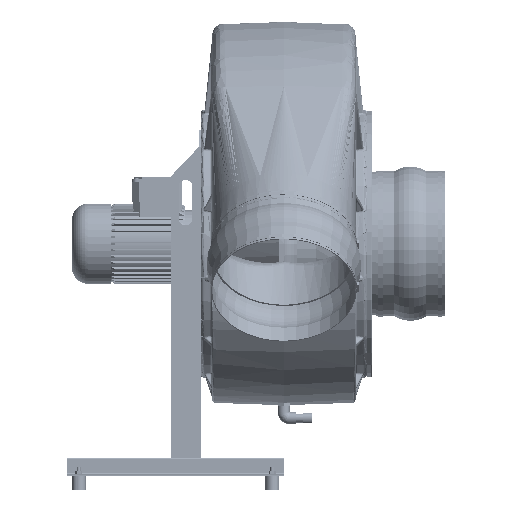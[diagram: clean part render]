
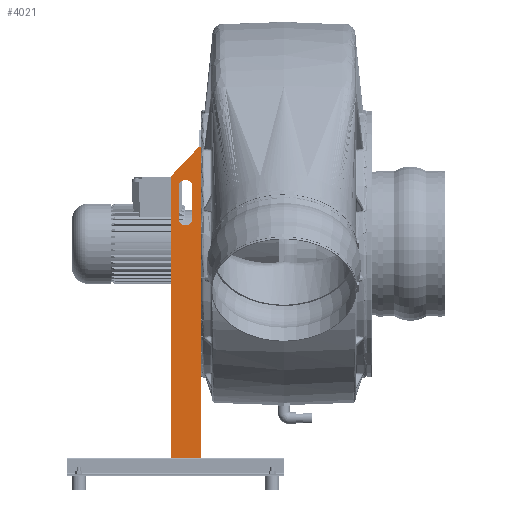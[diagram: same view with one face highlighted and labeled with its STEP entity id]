
A CAD part, left-side view. The second image highlights one B-rep face of the part: STEP entity #4021.
In plain terms, the highlighted planar face has unit normal (-1, 0, 0).
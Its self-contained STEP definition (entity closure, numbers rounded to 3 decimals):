
#4021 = ADVANCED_FACE( '', ( #10043, #10044 ), #10045, .F. );
#10043 = FACE_OUTER_BOUND( '', #19997, .T. );
#10044 = FACE_BOUND( '', #19998, .T. );
#10045 = PLANE( '', #19999 );
#19997 = EDGE_LOOP( '', ( #88112, #88113, #88114, #88115, #88116 ) );
#19998 = EDGE_LOOP( '', ( #88117, #88118, #88119, #88120 ) );
#19999 = AXIS2_PLACEMENT_3D( '', #88121, #88122, #88123 );
#88112 = ORIENTED_EDGE( '', *, *, #121517, .F. );
#88113 = ORIENTED_EDGE( '', *, *, #121518, .T. );
#88114 = ORIENTED_EDGE( '', *, *, #121519, .T. );
#88115 = ORIENTED_EDGE( '', *, *, #121520, .T. );
#88116 = ORIENTED_EDGE( '', *, *, #121521, .T. );
#88117 = ORIENTED_EDGE( '', *, *, #121522, .F. );
#88118 = ORIENTED_EDGE( '', *, *, #121523, .F. );
#88119 = ORIENTED_EDGE( '', *, *, #121524, .F. );
#88120 = ORIENTED_EDGE( '', *, *, #121525, .F. );
#88121 = CARTESIAN_POINT( '', ( -190., 65., 760. ) );
#88122 = DIRECTION( '', ( 1., 0., 0. ) );
#88123 = DIRECTION( '', ( 0., 0., -1. ) );
#121517 = EDGE_CURVE( '', #129418, #129419, #129420, .T. );
#121518 = EDGE_CURVE( '', #129418, #129421, #129422, .T. );
#121519 = EDGE_CURVE( '', #129421, #129423, #129424, .T. );
#121520 = EDGE_CURVE( '', #129423, #129425, #129426, .T. );
#121521 = EDGE_CURVE( '', #129425, #129419, #129427, .T. );
#121522 = EDGE_CURVE( '', #129428, #129429, #129430, .F. );
#121523 = EDGE_CURVE( '', #129431, #129428, #129432, .T. );
#121524 = EDGE_CURVE( '', #129433, #129431, #129434, .F. );
#121525 = EDGE_CURVE( '', #129429, #129433, #129435, .T. );
#129418 = VERTEX_POINT( '', #141096 );
#129419 = VERTEX_POINT( '', #141097 );
#129420 = LINE( '', #141098, #141099 );
#129421 = VERTEX_POINT( '', #141100 );
#129422 = LINE( '', #141101, #141102 );
#129423 = VERTEX_POINT( '', #141103 );
#129424 = LINE( '', #141104, #141105 );
#129425 = VERTEX_POINT( '', #141106 );
#129426 = LINE( '', #141107, #141108 );
#129427 = LINE( '', #141109, #141110 );
#129428 = VERTEX_POINT( '', #141111 );
#129429 = VERTEX_POINT( '', #141112 );
#129430 = CIRCLE( '', #141113, 15. );
#129431 = VERTEX_POINT( '', #141114 );
#129432 = LINE( '', #141115, #141116 );
#129433 = VERTEX_POINT( '', #141117 );
#129434 = CIRCLE( '', #141118, 15. );
#129435 = LINE( '', #141119, #141120 );
#141096 = CARTESIAN_POINT( '', ( -190., 0., 723. ) );
#141097 = CARTESIAN_POINT( '', ( -190., 0., 0. ) );
#141098 = CARTESIAN_POINT( '', ( -190., 0., 760. ) );
#141099 = VECTOR( '', #175311, 1000. );
#141100 = CARTESIAN_POINT( '', ( -190., 3., 723. ) );
#141101 = CARTESIAN_POINT( '', ( -190., 3., 723. ) );
#141102 = VECTOR( '', #175312, 1000. );
#141103 = CARTESIAN_POINT( '', ( -190., 65., 658. ) );
#141104 = CARTESIAN_POINT( '', ( -190., 65., 658. ) );
#141105 = VECTOR( '', #175313, 1000. );
#141106 = CARTESIAN_POINT( '', ( -190., 65., 0. ) );
#141107 = CARTESIAN_POINT( '', ( -190., 65., 760. ) );
#141108 = VECTOR( '', #175314, 1000. );
#141109 = CARTESIAN_POINT( '', ( -190., 65., 0. ) );
#141110 = VECTOR( '', #175315, 1000. );
#141111 = CARTESIAN_POINT( '', ( -190., 48., 565. ) );
#141112 = CARTESIAN_POINT( '', ( -190., 18., 565. ) );
#141113 = AXIS2_PLACEMENT_3D( '', #175316, #175317, #175318 );
#141114 = CARTESIAN_POINT( '', ( -190., 48., 635. ) );
#141115 = CARTESIAN_POINT( '', ( -190., 48., 760. ) );
#141116 = VECTOR( '', #175319, 1000. );
#141117 = CARTESIAN_POINT( '', ( -190., 18., 635. ) );
#141118 = AXIS2_PLACEMENT_3D( '', #175320, #175321, #175322 );
#141119 = CARTESIAN_POINT( '', ( -190., 18., 760. ) );
#141120 = VECTOR( '', #175323, 1000. );
#175311 = DIRECTION( '', ( 0., 0., -1. ) );
#175312 = DIRECTION( '', ( 0., 1., 0. ) );
#175313 = DIRECTION( '', ( 0., 0.69, -0.724 ) );
#175314 = DIRECTION( '', ( 0., 0., -1. ) );
#175315 = DIRECTION( '', ( 0., -1., 0. ) );
#175316 = CARTESIAN_POINT( '', ( -190., 33., 565. ) );
#175317 = DIRECTION( '', ( 1., 0., 0. ) );
#175318 = DIRECTION( '', ( 0., 0., -1. ) );
#175319 = DIRECTION( '', ( 0., 0., -1. ) );
#175320 = CARTESIAN_POINT( '', ( -190., 33., 635. ) );
#175321 = DIRECTION( '', ( 1., 0., 0. ) );
#175322 = DIRECTION( '', ( 0., 0., -1. ) );
#175323 = DIRECTION( '', ( 0., 0., 1. ) );
